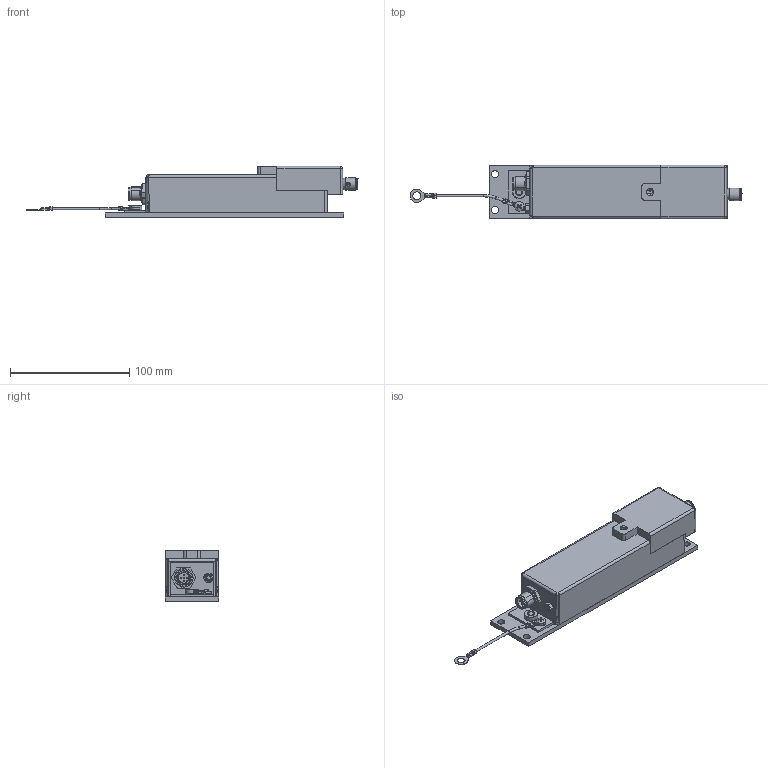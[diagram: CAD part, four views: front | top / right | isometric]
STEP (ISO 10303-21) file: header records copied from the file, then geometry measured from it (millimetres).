
FILE_DESCRIPTION(/* description */ (''),/* implementation_level */ '2;1');
FILE_NAME(/* name */ 'CMTINY_3D_GB',/* time_stamp */ '2016-09-22T13:34:49+02:00',/* author */ (''),/* organization */ (''),/* preprocessor_version */ 'ST-DEVELOPER v15.7',/* originating_system */ 'HiCAD 2015 2002.1 Build 408',/* authorisation */ '');
FILE_SCHEMA (('AUTOMOTIVE_DESIGN { 1 0 10303 214 1 1 1 1 }'));
Length unit declared in the file: millimetre
Products named in the file (34): Root; -_CM Tiny; -_Base plate; DIN 13-M4; -_Washer M4; 9210160635_Schroef VK+BZK M6x10; GEWINDE; 9210070415_Schroef BCK+KK M4x6; 9210500641_Stelschroef M6X12 ZS Nylon; 9210160645_Schroef VK+BZK M6x16; -_Nut M12; Pg 9; -_Nut M4; -_Connector M12 Male socket; insert; -_Body; -_LED; -_Ground plate; DIN 13-M6; -_M4 ring tongue; -_Ground wire; -_M6 ring tongue; -_Case; 0986100100_J-Block Head 1 position
Assembly tree (33 placements, depth 4):
  Root
    -_CM Tiny
      -_Base plate
        DIN 13-M4
      -_Washer M4
      9210160635_Schroef VK+BZK M6x10
        GEWINDE
      9210070415_Schroef BCK+KK M4x6
        GEWINDE
      9210500641_Stelschroef M6X12 ZS Nylon
        GEWINDE
      9210160645_Schroef VK+BZK M6x16
        GEWINDE
      9210160645_Schroef VK+BZK M6x16
        GEWINDE
      -_Nut M12
        Pg 9
      -_Nut M4
        Pg 9
      -_Washer M4
      -_Connector M12 Male socket
        insert
        -_Body
      -_LED
      -_LED
      -_Ground plate
        GEWINDE
        GEWINDE
        DIN 13-M6
      -_M4 ring tongue
      -_Ground wire
      -_M6 ring tongue
      -_Case
      0986100100_J-Block Head 1 position
Bounding box: 278.17 x 45 x 43 mm (x, y, z)
Volume: 280645.5 mm3; surface area: 72722 mm2
Topology: 32 solids, 33 shells, 565 faces, 1356 edges, 879 vertices
Faces by surface type: plane 279, cylinder 204, cone 52, torus 15, bspline 12, sphere 3
Full cylindrical faces by diameter (mm): 1 x5, 2 x3, 3.141 x7, 3.5 x1, 3.7 x2, 4 x9, 4.3 x2, 4.5 x4, 4.773 x9, 4.8 x1, 6 x19, 6.5 x1, 6.6 x4, 7.2 x1, 7.5 x3, 8 x4, 8.1 x1, 8.6 x1, 8.73 x1, 8.75 x1, 9 x3, 9.9 x1, 10.5 x1, 11 x3, 11.1 x1, 12 x3, 13.86 x1, 15.2 x2, 15.5 x2
Entity records: 39953 total; most frequent: CARTESIAN_POINT 16540, DIRECTION 2789, PRESENTATION_STYLE_ASSIGNMENT 2473, OVER_RIDING_STYLED_ITEM 2441, DRAUGHTING_PRE_DEFINED_CURVE_FONT 2298, CURVE_STYLE 2298, ORIENTED_EDGE 2298, EDGE_CURVE 1148
